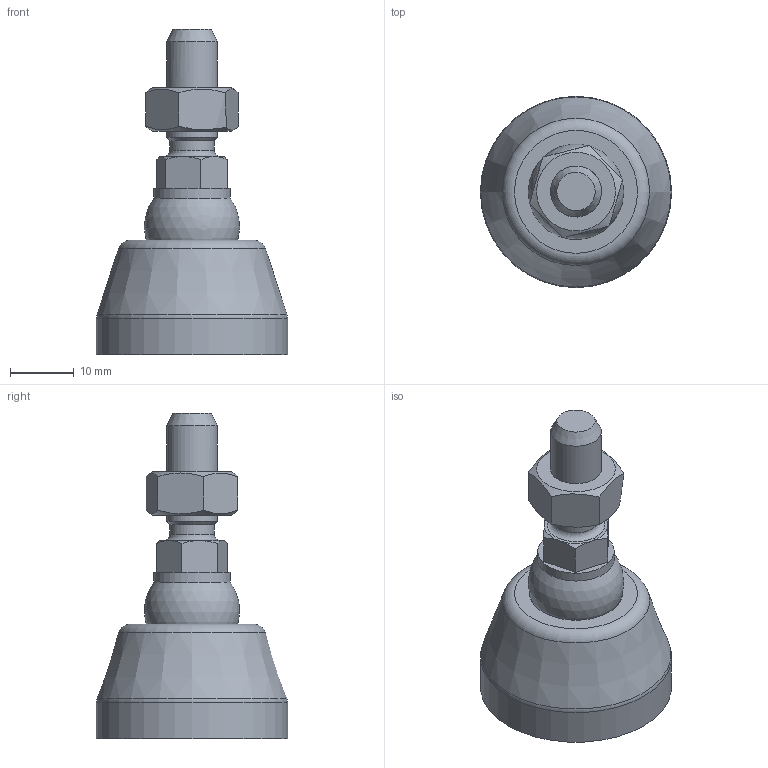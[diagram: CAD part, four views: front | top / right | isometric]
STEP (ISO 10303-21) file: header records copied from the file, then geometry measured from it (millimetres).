
FILE_DESCRIPTION(('STEP AP203'), '1');
FILE_NAME('栖闉罻', '', ('UNSPECIFIED'), ('UNSPECIFIED'), 'C3D Converter', 'C3D Toolkit', '');
FILE_SCHEMA(('CONFIG_CONTROL_DESIGN'));
Length unit declared in the file: millimetre
Products named in the file (4): A00015.1030; A00020.108040
Assembly tree (3 placements, depth 3):
  (unnamed)
    A00015.1030
    A00020.108040
      (unnamed)
Bounding box: 30 x 30 x 51.1 mm (x, y, z)
Volume: 3829 mm3; surface area: 10215 mm2
Topology: 2 solids, 3 shells, 214 faces, 588 edges, 344 vertices
Faces by surface type: plane 142, cylinder 34, torus 21, cone 15, sphere 2
Full cylindrical faces by diameter (mm): 6.647 x1, 7 x1, 8 x2, 8.3 x1, 12 x1, 14.2 x1, 15 x1, 20.6 x1, 30 x1
Entity records: 12220 total; most frequent: CARTESIAN_POINT 5317, ORIENTED_EDGE 1042, DIRECTION 1006, EDGE_CURVE 537, AXIS2_PLACEMENT_3D 398, VERTEX_POINT 343, EDGE_LOOP 246, FACE_BOUND 228
